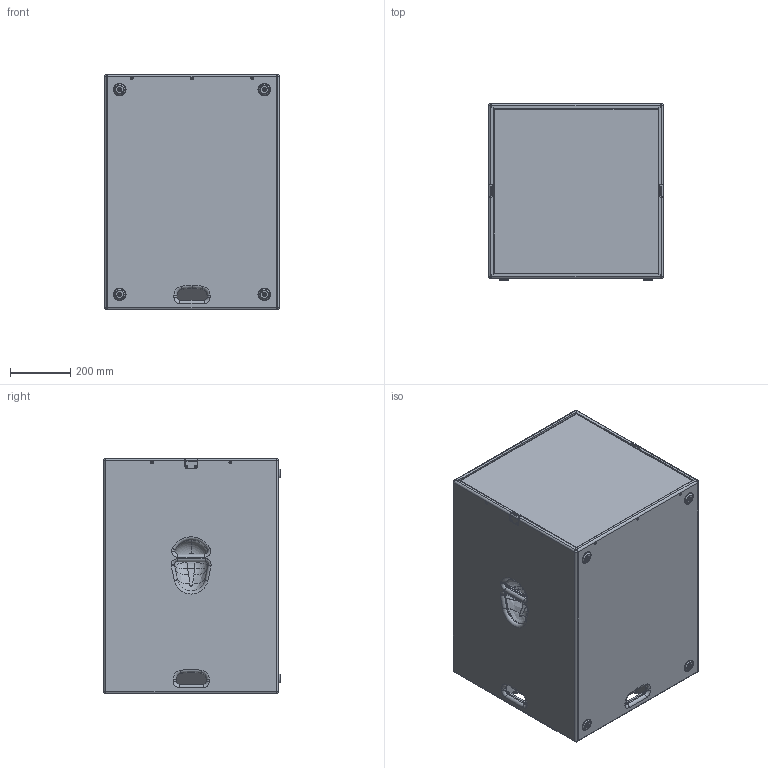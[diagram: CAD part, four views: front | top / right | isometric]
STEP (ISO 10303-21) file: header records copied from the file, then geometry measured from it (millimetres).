
FILE_DESCRIPTION (( 'STEP AP203' ), '1' );
FILE_NAME ('SEEBURG_G-Sub-1801.STEP', '2019-09-02T11:24:49', ( 'Michl' ), ( '' ), 'SwSTEP 2.0', 'SolidWorks 2009', '' );
FILE_SCHEMA (( 'CONFIG_CONTROL_DESIGN' ));
Length unit declared in the file: millimetre
Products named in the file (16): SEEBURG_G-Sub-1801; Galeo C Sub V4 GV Boden; Galeo C Sub V4 GV Deckel; Galeo C Sub V4 GV Seite Links; Galeo C Sub V4 GV Seite Rechts; Galeo C Sub V4 Rueckwand; Galeo C Sub V4 Griffverkleidung; Galeo C Sub V4 Bracing A; Galeo C Sub V4 Bracing B; Galeo C Sub V4 ASF Traeger; Galeo C-Sub V4 Griffdoppel; Griffdeckel Aero Tropfen; m20_flansch; Seeburg EPDM Foot 38x10; Befestigungsöse; Galeo C Sub V4 Frontgitter_ungelocht
Assembly tree (26 placements, depth 2):
  SEEBURG_G-Sub-1801
    Galeo C Sub V4 Rueckwand
    Befestigungsöse  x2
    Galeo C-Sub V4 Griffdoppel  x2
    Galeo C Sub V4 Griffverkleidung  x4
    Galeo C Sub V4 Frontgitter_ungelocht
    Griffdeckel Aero Tropfen  x2
    m20_flansch
    Galeo C Sub V4 GV Boden
    Galeo C Sub V4 Bracing A  x2
    Galeo C Sub V4 GV Deckel
    Seeburg EPDM Foot 38x10  x4
    Galeo C Sub V4 GV Seite Links
    Galeo C Sub V4 Bracing B  x2
    Galeo C Sub V4 GV Seite Rechts
    Galeo C Sub V4 ASF Traeger
Bounding box: 580 x 585.5 x 780 mm (x, y, z)
Volume: 32361576 mm3; surface area: 5539381.4 mm2
Topology: 26 solids, 26 shells, 1010 faces, 2528 edges, 1570 vertices
Faces by surface type: cylinder 385, plane 374, torus 119, cone 86, bspline 30, sphere 16
Entity records: 27103 total; most frequent: CARTESIAN_POINT 5635, DIRECTION 4332, ORIENTED_EDGE 3928, EDGE_CURVE 1964, AXIS2_PLACEMENT_3D 1628, VERTEX_POINT 1231, LINE 1076, VECTOR 1076
